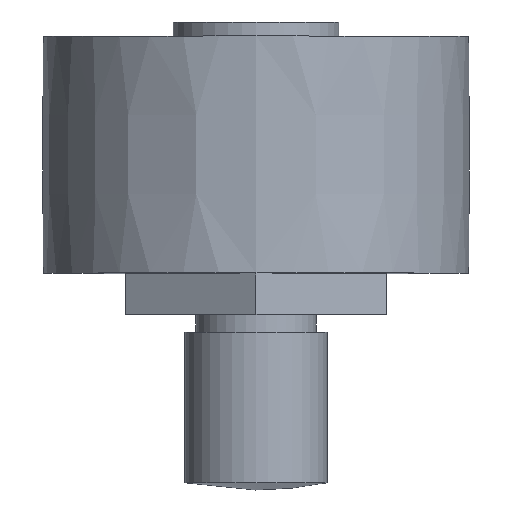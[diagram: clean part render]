
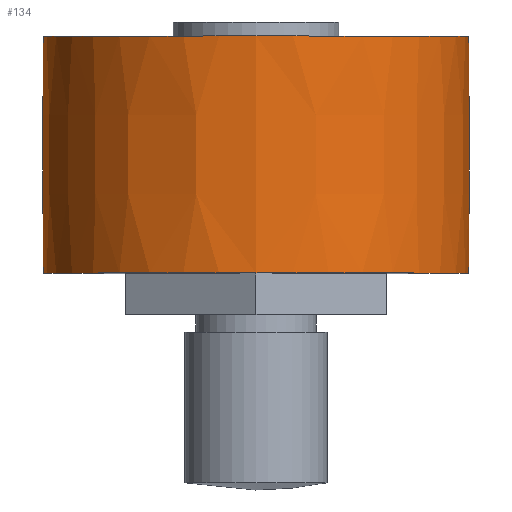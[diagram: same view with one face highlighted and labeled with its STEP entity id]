
A CAD part, top view. The second image highlights one B-rep face of the part: STEP entity #134.
In plain terms, the highlighted free-form (B-spline) face has degree [3, 3] with [4, 7] control points.
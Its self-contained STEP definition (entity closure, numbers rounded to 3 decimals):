
#134 = ADVANCED_FACE( '', ( #163, #164 ), #165, .T. );
#163 = FACE_OUTER_BOUND( '', #220, .T. );
#164 = FACE_OUTER_BOUND( '', #221, .T. );
#165 = ( BOUNDED_SURFACE(  )B_SPLINE_SURFACE( 3, 3, ( ( #224, #225, #226, #227, #228, #229, #230 ), ( #231, #232, #233, #234, #235, #236, #237 ), ( #238, #239, #240, #241, #242, #243, #244 ), ( #245, #246, #247, #248, #249, #250, #251 ) ), .UNSPECIFIED., .F., .T., .F. )B_SPLINE_SURFACE_WITH_KNOTS( ( 4, 4 ), ( 4, 3, 4 ), ( 0., 6.283 ), ( -0.01, 0., 0.01 ), .UNSPECIFIED. )GEOMETRIC_REPRESENTATION_ITEM(  )RATIONAL_B_SPLINE_SURFACE( ( ( 1., 0.333, 0.333, 1., 0.333, 0.333, 1. ), ( 1., 0.333, 0.333, 1., 0.333, 0.333, 1. ), ( 1., 0.333, 0.333, 1., 0.333, 0.333, 1. ), ( 1., 0.333, 0.333, 1., 0.333, 0.333, 1. ) ) )REPRESENTATION_ITEM( '' )SURFACE(  ) );
#220 = EDGE_LOOP( '', ( #324 ) );
#221 = EDGE_LOOP( '', ( #325 ) );
#224 = CARTESIAN_POINT( '', ( 0., -11.75, -8.975 ) );
#225 = CARTESIAN_POINT( '', ( 17.95, -11.75, -8.975 ) );
#226 = CARTESIAN_POINT( '', ( 17.95, -11.75, 8.975 ) );
#227 = CARTESIAN_POINT( '', ( 0., -11.75, 8.975 ) );
#228 = CARTESIAN_POINT( '', ( -17.95, -11.75, 8.975 ) );
#229 = CARTESIAN_POINT( '', ( -17.95, -11.75, -8.975 ) );
#230 = CARTESIAN_POINT( '', ( 0., -11.75, -8.975 ) );
#231 = CARTESIAN_POINT( '', ( 0., -8.417, -9.008 ) );
#232 = CARTESIAN_POINT( '', ( 18.017, -8.417, -9.008 ) );
#233 = CARTESIAN_POINT( '', ( 18.017, -8.417, 9.008 ) );
#234 = CARTESIAN_POINT( '', ( 0., -8.417, 9.008 ) );
#235 = CARTESIAN_POINT( '', ( -18.017, -8.417, 9.008 ) );
#236 = CARTESIAN_POINT( '', ( -18.017, -8.417, -9.008 ) );
#237 = CARTESIAN_POINT( '', ( 0., -8.417, -9.008 ) );
#238 = CARTESIAN_POINT( '', ( 0., -5.083, -9.008 ) );
#239 = CARTESIAN_POINT( '', ( 18.017, -5.083, -9.008 ) );
#240 = CARTESIAN_POINT( '', ( 18.017, -5.083, 9.008 ) );
#241 = CARTESIAN_POINT( '', ( 0., -5.083, 9.008 ) );
#242 = CARTESIAN_POINT( '', ( -18.017, -5.083, 9.008 ) );
#243 = CARTESIAN_POINT( '', ( -18.017, -5.083, -9.008 ) );
#244 = CARTESIAN_POINT( '', ( 0., -5.083, -9.008 ) );
#245 = CARTESIAN_POINT( '', ( 0., -1.75, -8.975 ) );
#246 = CARTESIAN_POINT( '', ( 17.95, -1.75, -8.975 ) );
#247 = CARTESIAN_POINT( '', ( 17.95, -1.75, 8.975 ) );
#248 = CARTESIAN_POINT( '', ( 0., -1.75, 8.975 ) );
#249 = CARTESIAN_POINT( '', ( -17.95, -1.75, 8.975 ) );
#250 = CARTESIAN_POINT( '', ( -17.95, -1.75, -8.975 ) );
#251 = CARTESIAN_POINT( '', ( 0., -1.75, -8.975 ) );
#324 = ORIENTED_EDGE( '', *, *, #466, .T. );
#325 = ORIENTED_EDGE( '', *, *, #473, .F. );
#466 = EDGE_CURVE( '', #518, #518, #519, .T. );
#473 = EDGE_CURVE( '', #532, #532, #533, .T. );
#518 = VERTEX_POINT( '', #600 );
#519 = CIRCLE( '', #601, 8.975 );
#532 = VERTEX_POINT( '', #620 );
#533 = CIRCLE( '', #621, 8.975 );
#600 = CARTESIAN_POINT( '', ( 0., -1.75, -8.975 ) );
#601 = AXIS2_PLACEMENT_3D( '', #701, #702, #703 );
#620 = CARTESIAN_POINT( '', ( 0., -11.75, -8.975 ) );
#621 = AXIS2_PLACEMENT_3D( '', #710, #711, #712 );
#701 = CARTESIAN_POINT( '', ( 0., -1.75, 0. ) );
#702 = DIRECTION( '', ( 0., -1., 0. ) );
#703 = DIRECTION( '', ( 0., 0., -1. ) );
#710 = CARTESIAN_POINT( '', ( 0., -11.75, 0. ) );
#711 = DIRECTION( '', ( 0., -1., 0. ) );
#712 = DIRECTION( '', ( 0., 0., -1. ) );
